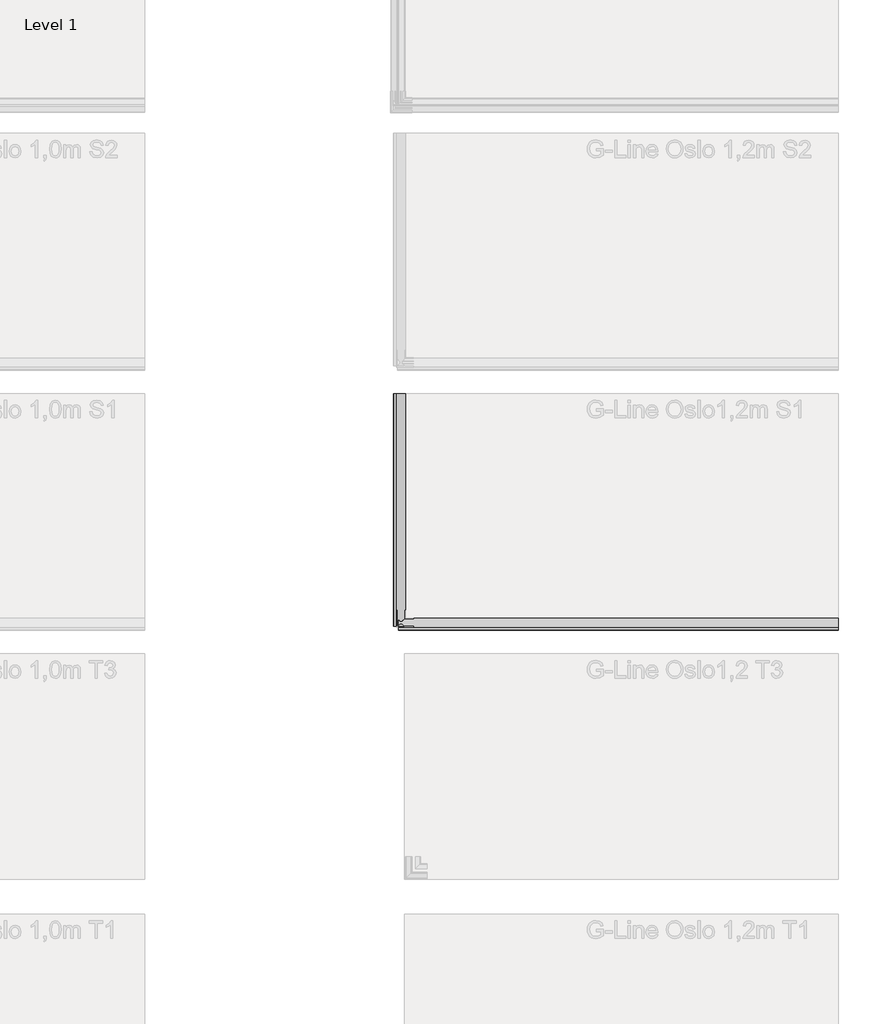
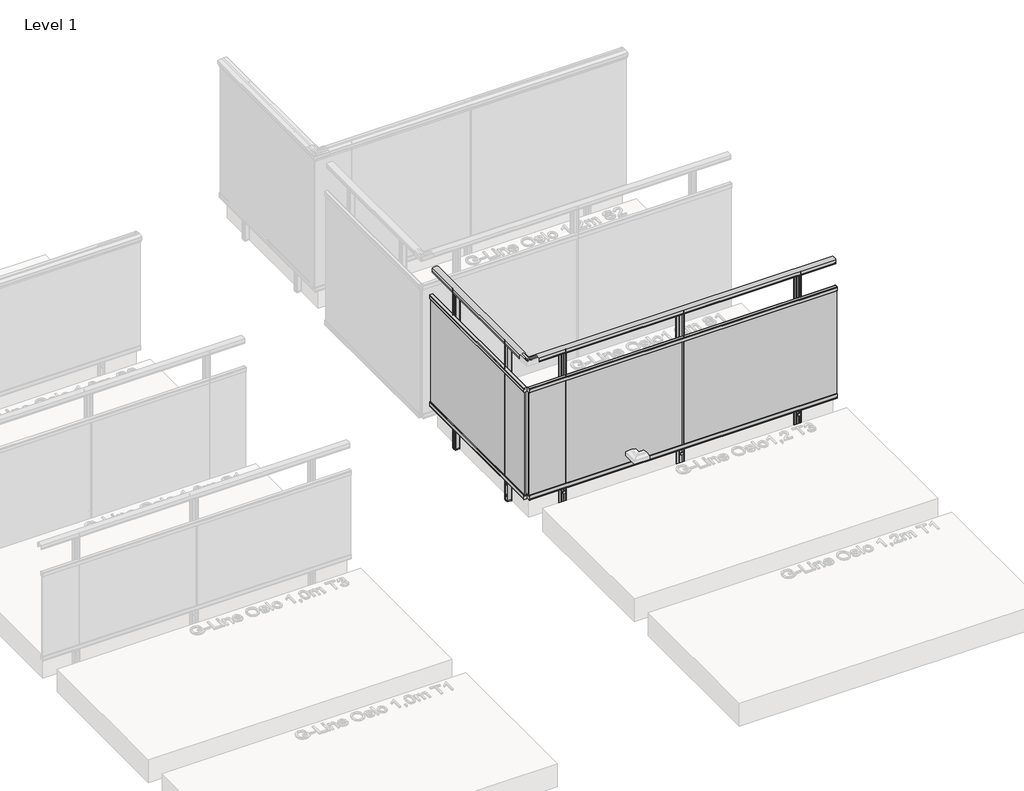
# One storey, part 33 of 66: 2 railings.
"""IFC4 building model written with IfcOpenShell, lengths in millimetres."""

from ifc_helpers import new_model, si_unit, point, frame, frame_2d, origin, origin_with_axes, place, context, project, spatial, polyline, circle_curve, trimmed, segment, composite_curve, outline, extrude, element, save

model = new_model("IFC4")

# Units and contexts
model_context = context("Model", 3, world=origin())
ifc_project = project(units=[si_unit("LENGTHUNIT", "METRE", prefix="MILLI")], contexts=[model_context])

# Site, building, storey
site = spatial("IfcSite", under=ifc_project)
building = spatial("IfcBuilding", under=site)
storey = spatial("IfcBuildingStorey", under=building, Name="Level 1", Elevation=0.0)

# Railings
placement = place(None, origin())
element("IfcRailing", 1, ObjectType="G-Line Oslo 1,2m S1", at=placement, inside=storey, context=model_context, shape_type="SweptSolid", body=[
    extrude(outline(composite_curve([segment(trimmed(circle_curve(frame_2d((12609.563828, 1142.6785502)), 57.3235687), [point((12584.3088677, 1194.1390059))], [point((12634.828526, 1194.1342258))], False, "CARTESIAN"), True, "CONTINUOUS"), segment(polyline([(12634.828526, 1194.1342258), (12634.828526, 1167.0235023), (12634.2465942, 1166.4415706), (12634.8686753, 1165.8194895), (12634.8686753, 1157.2498847), (12633.0637224, 1157.2498847), (12633.0637224, 1180.4998829), (12586.0686763, 1180.4998829), (12586.0686763, 1157.2498847), (12584.3088677, 1157.2498847), (12584.3088677, 1165.9694895), (12584.9236507, 1166.5842725), (12584.3088677, 1167.1990555), (12584.3088677, 1194.1390059)]), True, "CONTINUOUS")], self_intersect=False)), frame((8469.0547322, 0.0, 0.0), z_axis=(1.0, 0.0, 0.0), x_axis=(0.0, 1.0, 0.0)), (0.0, 0.0, 1.0), 2535.0),
    extrude(outline(composite_curve([segment(polyline([(12582.0487504, 933.0), (12572.5287505, 933.0), (12565.2886441, 933.0)]), True, "CONTINUOUS"), segment(trimmed(circle_curve(frame_2d((12565.2886441, 933.5)), 0.5), [point((12565.2886441, 933.0))], [point((12564.7886441, 933.5))], False, "CARTESIAN"), True, "CONTINUOUS"), segment(polyline([(12564.7886441, 933.5), (12564.7886441, 961.4642612), (12565.2520415, 962.5008136), (12564.8288365, 963.3802866), (12564.7886441, 968.5)]), True, "CONTINUOUS"), segment(trimmed(circle_curve(frame_2d((12566.2886441, 968.5)), 1.5), [point((12564.7886441, 968.5))], [point((12566.2886441, 970.0))], False, "CARTESIAN"), True, "CONTINUOUS"), segment(polyline([(12566.2886441, 970.0), (12588.2886441, 970.0)]), True, "CONTINUOUS"), segment(trimmed(circle_curve(frame_2d((12588.2886441, 968.5)), 1.5), [point((12588.2886441, 970.0))], [point((12589.7886441, 968.5))], False, "CARTESIAN"), True, "CONTINUOUS"), segment(polyline([(12589.7886441, 968.5), (12589.7886441, 963.5302866), (12589.3252466, 962.5701988), (12589.7484517, 961.6142612), (12589.7484517, 933.6964102)]), True, "CONTINUOUS"), segment(trimmed(circle_curve(frame_2d((12589.2886441, 933.5)), 0.5), [point((12589.7484517, 933.6964102))], [point((12589.2886441, 933.0))], False, "CARTESIAN"), True, "CONTINUOUS"), segment(polyline([(12589.2886441, 933.0), (12582.0487504, 933.0)]), True, "CONTINUOUS")], self_intersect=False)), frame((8469.0547322, 0.0, 0.0), z_axis=(1.0, 0.0, 0.0), x_axis=(0.0, 1.0, 0.0)), (0.0, 0.0, 1.0), 2535.0),
    extrude(outline(polyline([(11004.0547322, 12581.6686441), (11004.0547322, 12572.9086441), (8469.0547322, 12572.9086441), (8469.0547322, 12581.6686441), (11004.0547322, 12581.6686441)])), frame((0.0, 0.0, 28.0), z_axis=(0.0, 0.0, 1.0), x_axis=(1.0, 0.0, 0.0)), (0.0, 0.0, 1.0), 930.0),
    extrude(outline(composite_curve([segment(polyline([(12572.5285377, 37.0), (12582.0485377, 37.0), (12589.2886441, 37.0)]), True, "CONTINUOUS"), segment(trimmed(circle_curve(frame_2d((12589.2886441, 36.5)), 0.5), [point((12589.2886441, 37.0))], [point((12589.7886441, 36.5))], False, "CARTESIAN"), True, "CONTINUOUS"), segment(polyline([(12589.7886441, 36.5), (12589.7886441, 8.5357388), (12589.3252466, 7.4991864), (12589.7484517, 6.6197134), (12589.7886441, 1.5)]), True, "CONTINUOUS"), segment(trimmed(circle_curve(frame_2d((12588.2886441, 1.5)), 1.5), [point((12589.7886441, 1.5))], [point((12588.2886441, 0.0))], False, "CARTESIAN"), True, "CONTINUOUS"), segment(polyline([(12588.2886441, 0.0), (12566.2886441, 0.0)]), True, "CONTINUOUS"), segment(trimmed(circle_curve(frame_2d((12566.2886441, 1.5)), 1.5), [point((12566.2886441, 0.0))], [point((12564.7886441, 1.5))], False, "CARTESIAN"), True, "CONTINUOUS"), segment(polyline([(12564.7886441, 1.5), (12564.7886441, 6.4697134), (12565.2520415, 7.4298012), (12564.8288365, 8.3857388), (12564.8288365, 36.3035898)]), True, "CONTINUOUS"), segment(trimmed(circle_curve(frame_2d((12565.2886441, 36.5)), 0.5), [point((12564.8288365, 36.3035898))], [point((12565.2886441, 37.0))], False, "CARTESIAN"), True, "CONTINUOUS"), segment(polyline([(12565.2886441, 37.0), (12572.5285377, 37.0)]), True, "CONTINUOUS")], self_intersect=False)), frame((8469.0547322, 0.0, 0.0), z_axis=(1.0, 0.0, 0.0), x_axis=(0.0, 1.0, 0.0)), (0.0, 0.0, 1.0), 2535.0),
    extrude(outline(polyline([(9740.5547322, 12570.2118492), (9732.5547322, 12570.2118492), (9732.5547322, 12578.2118492), (9740.5547322, 12578.2118492), (9740.5547322, 12570.2118492)])), origin_with_axes(), (0.0, 0.0, 1.0), 951.0),
    extrude(outline(composite_curve([segment(trimmed(circle_curve(frame_2d((9716.0547322, 12589.7886441)), 2.5), [point((9716.0547322, 12587.2886441))], [point((9713.5547322, 12589.7886441))], False, "CARTESIAN"), True, "CONTINUOUS"), segment(polyline([(9713.5547322, 12589.7886441), (9713.5547322, 12630.7886441)]), True, "CONTINUOUS"), segment(trimmed(circle_curve(frame_2d((9716.0547322, 12630.7886441)), 2.5), [point((9713.5547322, 12630.7886441))], [point((9716.0547322, 12633.2886441))], False, "CARTESIAN"), True, "CONTINUOUS"), segment(polyline([(9716.0547322, 12633.2886441), (9735.6315272, 12633.2886441), (9736.5547322, 12632.365439), (9737.4377449, 12633.2484517), (9757.0547322, 12633.2886441)]), True, "CONTINUOUS"), segment(trimmed(circle_curve(frame_2d((9757.0547322, 12630.7886441)), 2.5), [point((9757.0547322, 12633.2886441))], [point((9759.5547322, 12630.7886441))], False, "CARTESIAN"), True, "CONTINUOUS"), segment(polyline([(9759.5547322, 12630.7886441), (9759.5547322, 12589.7886441)]), True, "CONTINUOUS"), segment(trimmed(circle_curve(frame_2d((9757.0547322, 12589.7886441)), 2.5), [point((9759.5547322, 12589.7886441))], [point((9757.0547322, 12587.2886441))], False, "CARTESIAN"), True, "CONTINUOUS"), segment(polyline([(9757.0547322, 12587.2886441), (9737.4377449, 12587.3288365), (9736.5547322, 12588.2118492), (9735.6717195, 12587.3288365), (9716.0547322, 12587.2886441)]), True, "CONTINUOUS")], self_intersect=False), holes=[composite_curve([segment(trimmed(circle_curve(frame_2d((9754.5547322, 12628.2886441)), 1.0), [point((9755.5547322, 12628.2886441))], [point((9754.5547322, 12629.2886441))], True, "CARTESIAN"), True, "CONTINUOUS"), segment(polyline([(9754.5547322, 12629.2886441), (9718.5547322, 12629.2886441)]), True, "CONTINUOUS"), segment(trimmed(circle_curve(frame_2d((9718.5547322, 12628.2886441)), 1.0), [point((9718.5547322, 12629.2886441))], [point((9717.5547322, 12628.2886441))], True, "CARTESIAN"), True, "CONTINUOUS"), segment(polyline([(9717.5547322, 12628.2886441), (9717.5547322, 12592.2886441)]), True, "CONTINUOUS"), segment(trimmed(circle_curve(frame_2d((9718.5547322, 12592.2886441)), 1.0), [point((9717.5547322, 12592.2886441))], [point((9718.5547322, 12591.2886441))], True, "CARTESIAN"), True, "CONTINUOUS"), segment(polyline([(9718.5547322, 12591.2886441), (9754.5547322, 12591.2886441)]), True, "CONTINUOUS"), segment(trimmed(circle_curve(frame_2d((9754.5547322, 12592.2886441)), 1.0), [point((9754.5547322, 12591.2886441))], [point((9755.5547322, 12592.2886441))], True, "CARTESIAN"), True, "CONTINUOUS"), segment(polyline([(9755.5547322, 12592.2886441), (9755.5547322, 12628.2886441)]), True, "CONTINUOUS")], self_intersect=False)]), frame((0.0, 0.0, -200.0), z_axis=(0.0, 0.0, 1.0), x_axis=(1.0, 0.0, 0.0)), (0.0, 0.0, 1.0), 1381.0),
    extrude(outline(composite_curve([segment(trimmed(circle_curve(frame_2d((0.0, -12.0)), 12.0), [point((0.0, -23.9999999))], [point((0.0, 0.0))], False, "CARTESIAN"), True, "CONTINUOUS"), segment(trimmed(circle_curve(frame_2d((0.0, -12.0)), 12.0), [point((0.0, 0.0))], [point((0.0, -23.9999999))], False, "CARTESIAN"), True, "CONTINUOUS")], self_intersect=False)), frame((9748.5650091, 12584.7534315, -175.0), z_axis=(-0.0004029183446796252, 0.9999999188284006, 0.0), x_axis=(0.0, 0.0, 1.0)), (0.0, 0.0, 1.0), 3.0757477),
    extrude(outline(composite_curve([segment(trimmed(circle_curve(frame_2d((0.0, -12.0)), 12.0), [point((0.0, -23.9999999))], [point((0.0, 0.0))], False, "CARTESIAN"), True, "CONTINUOUS"), segment(trimmed(circle_curve(frame_2d((0.0, -12.0)), 12.0), [point((0.0, 0.0))], [point((0.0, -23.9999999))], False, "CARTESIAN"), True, "CONTINUOUS")], self_intersect=False)), frame((9748.5650091, 12584.7534315, -50.0), z_axis=(-0.0004029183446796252, 0.9999999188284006, 0.0), x_axis=(0.0, 0.0, 1.0)), (0.0, 0.0, 1.0), 3.0757477),
    extrude(outline(composite_curve([segment(polyline([(8768.2519452, 12630.2886441), (8769.0547322, 12629.4858571), (8769.8225694, 12630.2536942), (8786.8808193, 12630.2886441)]), True, "CONTINUOUS"), segment(trimmed(circle_curve(frame_2d((8786.8808192, 12628.114731)), 2.173913), [point((8786.8808193, 12630.2886441))], [point((8789.0547322, 12628.114731))], False, "CARTESIAN"), True, "CONTINUOUS"), segment(polyline([(8789.0547322, 12628.114731), (8789.0547322, 12592.4625571)]), True, "CONTINUOUS"), segment(trimmed(circle_curve(frame_2d((8786.8808192, 12592.4625571)), 2.173913), [point((8789.0547322, 12592.4625571))], [point((8786.8808192, 12590.2886441))], False, "CARTESIAN"), True, "CONTINUOUS"), segment(polyline([(8786.8808192, 12590.2886441), (8769.8225694, 12590.323594), (8769.0547322, 12591.0914311), (8768.2868951, 12590.323594), (8751.2286453, 12590.2886441)]), True, "CONTINUOUS"), segment(trimmed(circle_curve(frame_2d((8751.2286453, 12592.4625571)), 2.173913), [point((8751.2286453, 12590.2886441))], [point((8749.0547322, 12592.4625571))], False, "CARTESIAN"), True, "CONTINUOUS"), segment(polyline([(8749.0547322, 12592.4625571), (8749.0547322, 12628.114731)]), True, "CONTINUOUS"), segment(trimmed(circle_curve(frame_2d((8751.2286453, 12628.114731)), 2.173913), [point((8749.0547322, 12628.114731))], [point((8751.2286453, 12630.2886441))], False, "CARTESIAN"), True, "CONTINUOUS"), segment(polyline([(8751.2286453, 12630.2886441), (8768.2519452, 12630.2886441)]), True, "CONTINUOUS")], self_intersect=False)), frame((0.0, 0.0, -200.0), z_axis=(0.0, 0.0, 1.0), x_axis=(1.0, 0.0, 0.0)), (0.0, 0.0, 1.0), 10.0),
    extrude(outline(composite_curve([segment(trimmed(circle_curve(frame_2d((0.0, -12.0)), 12.0), [point((0.0, -23.9999999))], [point((0.0, 0.0))], False, "CARTESIAN"), True, "CONTINUOUS"), segment(trimmed(circle_curve(frame_2d((0.0, -12.0)), 12.0), [point((0.0, 0.0))], [point((0.0, -23.9999999))], False, "CARTESIAN"), True, "CONTINUOUS")], self_intersect=False)), frame((8781.0650091, 12587.2248149, -151.0), z_axis=(-0.0004029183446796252, 0.9999999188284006, 0.0), x_axis=(0.0, 0.0, 1.0)), (0.0, 0.0, 1.0), 3.0757477),
    extrude(outline(composite_curve([segment(trimmed(circle_curve(frame_2d((0.0, -12.0)), 12.0), [point((0.0, -23.9999999))], [point((0.0, 0.0))], False, "CARTESIAN"), True, "CONTINUOUS"), segment(trimmed(circle_curve(frame_2d((0.0, -12.0)), 12.0), [point((0.0, 0.0))], [point((0.0, -23.9999999))], False, "CARTESIAN"), True, "CONTINUOUS")], self_intersect=False)), frame((8781.0650091, 12587.2248149, -50.0), z_axis=(-0.0004029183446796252, 0.9999999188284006, 0.0), x_axis=(0.0, 0.0, 1.0)), (0.0, 0.0, 1.0), 3.0757477),
    extrude(outline(composite_curve([segment(polyline([(8789.0547322, 12628.114731), (8789.0547322, 12592.4625571)]), True, "CONTINUOUS"), segment(trimmed(circle_curve(frame_2d((8786.8808192, 12592.4625571)), 2.173913), [point((8789.0547322, 12592.4625571))], [point((8786.8808192, 12590.2886441))], False, "CARTESIAN"), True, "CONTINUOUS"), segment(polyline([(8786.8808192, 12590.2886441), (8769.8225694, 12590.323594), (8769.0547322, 12591.0914311), (8768.2868951, 12590.323594), (8751.2286453, 12590.2886441)]), True, "CONTINUOUS"), segment(trimmed(circle_curve(frame_2d((8751.2286453, 12592.4625571)), 2.173913), [point((8751.2286453, 12590.2886441))], [point((8749.0547322, 12592.4625571))], False, "CARTESIAN"), True, "CONTINUOUS"), segment(polyline([(8749.0547322, 12592.4625571), (8749.0547322, 12628.114731)]), True, "CONTINUOUS"), segment(trimmed(circle_curve(frame_2d((8751.2286453, 12628.114731)), 2.173913), [point((8749.0547322, 12628.114731))], [point((8751.2286453, 12630.2886441))], False, "CARTESIAN"), True, "CONTINUOUS"), segment(polyline([(8751.2286453, 12630.2886441), (8768.1564603, 12630.2886441), (8768.9242975, 12629.8856898), (8769.8225694, 12630.2536942), (8786.8808192, 12630.2886441)]), True, "CONTINUOUS"), segment(trimmed(circle_curve(frame_2d((8786.8808192, 12628.114731)), 2.173913), [point((8786.8808192, 12630.2886441))], [point((8789.0547322, 12628.114731))], False, "CARTESIAN"), True, "CONTINUOUS")], self_intersect=False), holes=[composite_curve([segment(trimmed(circle_curve(frame_2d((8784.7069062, 12625.940818)), 0.8695652), [point((8785.5764714, 12625.940818))], [point((8784.7069062, 12626.8103832))], True, "CARTESIAN"), True, "CONTINUOUS"), segment(polyline([(8784.7069062, 12626.8103832), (8753.4025583, 12626.8103832)]), True, "CONTINUOUS"), segment(trimmed(circle_curve(frame_2d((8753.4025583, 12625.940818)), 0.8695652), [point((8753.4025583, 12626.8103832))], [point((8752.5329931, 12625.940818))], True, "CARTESIAN"), True, "CONTINUOUS"), segment(polyline([(8752.5329931, 12625.940818), (8752.5329931, 12594.6364702)]), True, "CONTINUOUS"), segment(trimmed(circle_curve(frame_2d((8753.4025583, 12594.6364702)), 0.8695652), [point((8752.5329931, 12594.6364702))], [point((8753.4025583, 12593.766905))], True, "CARTESIAN"), True, "CONTINUOUS"), segment(polyline([(8753.4025583, 12593.766905), (8784.7069062, 12593.766905)]), True, "CONTINUOUS"), segment(trimmed(circle_curve(frame_2d((8784.7069062, 12594.6364702)), 0.8695652), [point((8784.7069062, 12593.766905))], [point((8785.5764714, 12594.6364702))], True, "CARTESIAN"), True, "CONTINUOUS"), segment(polyline([(8785.5764714, 12594.6364702), (8785.5764714, 12625.940818)]), True, "CONTINUOUS")], self_intersect=False)]), frame((0.0, 0.0, -190.0), z_axis=(0.0, 0.0, 1.0), x_axis=(1.0, 0.0, 0.0)), (0.0, 0.0, 1.0), 1378.0),
    extrude(outline(composite_curve([segment(polyline([(10703.2519452, 12630.2886441), (10704.0547322, 12629.4858571), (10704.8225694, 12630.2536942), (10721.8808193, 12630.2886441)]), True, "CONTINUOUS"), segment(trimmed(circle_curve(frame_2d((10721.8808192, 12628.114731)), 2.173913), [point((10721.8808193, 12630.2886441))], [point((10724.0547322, 12628.114731))], False, "CARTESIAN"), True, "CONTINUOUS"), segment(polyline([(10724.0547322, 12628.114731), (10724.0547322, 12592.4625571)]), True, "CONTINUOUS"), segment(trimmed(circle_curve(frame_2d((10721.8808192, 12592.4625571)), 2.173913), [point((10724.0547322, 12592.4625571))], [point((10721.8808192, 12590.2886441))], False, "CARTESIAN"), True, "CONTINUOUS"), segment(polyline([(10721.8808192, 12590.2886441), (10704.8225694, 12590.323594), (10704.0547322, 12591.0914311), (10703.2868951, 12590.323594), (10686.2286453, 12590.2886441)]), True, "CONTINUOUS"), segment(trimmed(circle_curve(frame_2d((10686.2286453, 12592.4625571)), 2.173913), [point((10686.2286453, 12590.2886441))], [point((10684.0547322, 12592.4625571))], False, "CARTESIAN"), True, "CONTINUOUS"), segment(polyline([(10684.0547322, 12592.4625571), (10684.0547322, 12628.114731)]), True, "CONTINUOUS"), segment(trimmed(circle_curve(frame_2d((10686.2286453, 12628.114731)), 2.173913), [point((10684.0547322, 12628.114731))], [point((10686.2286453, 12630.2886441))], False, "CARTESIAN"), True, "CONTINUOUS"), segment(polyline([(10686.2286453, 12630.2886441), (10703.2519452, 12630.2886441)]), True, "CONTINUOUS")], self_intersect=False)), frame((0.0, 0.0, -200.0), z_axis=(0.0, 0.0, 1.0), x_axis=(1.0, 0.0, 0.0)), (0.0, 0.0, 1.0), 10.0),
    extrude(outline(composite_curve([segment(trimmed(circle_curve(frame_2d((0.0, -12.0)), 12.0), [point((0.0, -23.9999999))], [point((0.0, 0.0))], False, "CARTESIAN"), True, "CONTINUOUS"), segment(trimmed(circle_curve(frame_2d((0.0, -12.0)), 12.0), [point((0.0, 0.0))], [point((0.0, -23.9999999))], False, "CARTESIAN"), True, "CONTINUOUS")], self_intersect=False)), frame((10716.0650091, 12587.2248149, -151.0), z_axis=(-0.0004029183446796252, 0.9999999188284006, 0.0), x_axis=(0.0, 0.0, 1.0)), (0.0, 0.0, 1.0), 3.0757477),
    extrude(outline(composite_curve([segment(trimmed(circle_curve(frame_2d((0.0, -12.0)), 12.0), [point((0.0, -23.9999999))], [point((0.0, 0.0))], False, "CARTESIAN"), True, "CONTINUOUS"), segment(trimmed(circle_curve(frame_2d((0.0, -12.0)), 12.0), [point((0.0, 0.0))], [point((0.0, -23.9999999))], False, "CARTESIAN"), True, "CONTINUOUS")], self_intersect=False)), frame((10716.0650091, 12587.2248149, -50.0), z_axis=(-0.0004029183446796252, 0.9999999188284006, 0.0), x_axis=(0.0, 0.0, 1.0)), (0.0, 0.0, 1.0), 3.0757477),
    extrude(outline(composite_curve([segment(polyline([(10724.0547322, 12628.114731), (10724.0547322, 12592.4625571)]), True, "CONTINUOUS"), segment(trimmed(circle_curve(frame_2d((10721.8808192, 12592.4625571)), 2.173913), [point((10724.0547322, 12592.4625571))], [point((10721.8808192, 12590.2886441))], False, "CARTESIAN"), True, "CONTINUOUS"), segment(polyline([(10721.8808192, 12590.2886441), (10704.8225694, 12590.323594), (10704.0547322, 12591.0914311), (10703.2868951, 12590.323594), (10686.2286453, 12590.2886441)]), True, "CONTINUOUS"), segment(trimmed(circle_curve(frame_2d((10686.2286453, 12592.4625571)), 2.173913), [point((10686.2286453, 12590.2886441))], [point((10684.0547322, 12592.4625571))], False, "CARTESIAN"), True, "CONTINUOUS"), segment(polyline([(10684.0547322, 12592.4625571), (10684.0547322, 12628.114731)]), True, "CONTINUOUS"), segment(trimmed(circle_curve(frame_2d((10686.2286453, 12628.114731)), 2.173913), [point((10684.0547322, 12628.114731))], [point((10686.2286453, 12630.2886441))], False, "CARTESIAN"), True, "CONTINUOUS"), segment(polyline([(10686.2286453, 12630.2886441), (10703.1564603, 12630.2886441), (10703.9242975, 12629.8856898), (10704.8225694, 12630.2536942), (10721.8808192, 12630.2886441)]), True, "CONTINUOUS"), segment(trimmed(circle_curve(frame_2d((10721.8808192, 12628.114731)), 2.173913), [point((10721.8808192, 12630.2886441))], [point((10724.0547322, 12628.114731))], False, "CARTESIAN"), True, "CONTINUOUS")], self_intersect=False), holes=[composite_curve([segment(trimmed(circle_curve(frame_2d((10719.7069062, 12625.940818)), 0.8695652), [point((10720.5764714, 12625.940818))], [point((10719.7069062, 12626.8103832))], True, "CARTESIAN"), True, "CONTINUOUS"), segment(polyline([(10719.7069062, 12626.8103832), (10688.4025583, 12626.8103832)]), True, "CONTINUOUS"), segment(trimmed(circle_curve(frame_2d((10688.4025583, 12625.940818)), 0.8695652), [point((10688.4025583, 12626.8103832))], [point((10687.5329931, 12625.940818))], True, "CARTESIAN"), True, "CONTINUOUS"), segment(polyline([(10687.5329931, 12625.940818), (10687.5329931, 12594.6364702)]), True, "CONTINUOUS"), segment(trimmed(circle_curve(frame_2d((10688.4025583, 12594.6364702)), 0.8695652), [point((10687.5329931, 12594.6364702))], [point((10688.4025583, 12593.766905))], True, "CARTESIAN"), True, "CONTINUOUS"), segment(polyline([(10688.4025583, 12593.766905), (10719.7069062, 12593.766905)]), True, "CONTINUOUS"), segment(trimmed(circle_curve(frame_2d((10719.7069062, 12594.6364702)), 0.8695652), [point((10719.7069062, 12593.766905))], [point((10720.5764714, 12594.6364702))], True, "CARTESIAN"), True, "CONTINUOUS"), segment(polyline([(10720.5764714, 12594.6364702), (10720.5764714, 12625.940818)]), True, "CONTINUOUS")], self_intersect=False)]), frame((0.0, 0.0, -190.0), z_axis=(0.0, 0.0, 1.0), x_axis=(1.0, 0.0, 0.0)), (0.0, 0.0, 1.0), 1378.0),
])
element("IfcRailing", 2, ObjectType="G-Line Oslo 1,2m S1", at=placement, inside=storey, context=model_context, shape_type="SweptSolid", body=[
    extrude(outline(composite_curve([segment(trimmed(circle_curve(frame_2d((1142.6785502, 8483.339356)), 57.3235687), [point((1194.1390059, 8508.5943162))], [point((1194.1342258, 8458.074658))], False, "CARTESIAN"), True, "CONTINUOUS"), segment(polyline([(1194.1342258, 8458.074658), (1167.0235023, 8458.074658), (1166.4415706, 8458.6565897), (1165.8194895, 8458.0345086), (1157.2498847, 8458.0345086), (1157.2498847, 8459.8394615), (1180.4998829, 8459.8394615), (1180.4998829, 8506.8345077), (1157.2498847, 8506.8345077), (1157.2498847, 8508.5943162), (1165.9694895, 8508.5943162), (1166.5842725, 8507.9795332), (1167.1990555, 8508.5943162), (1194.1390059, 8508.5943162)]), True, "CONTINUOUS")], self_intersect=False)), frame((0.0, 12590.2886441, 0.0), z_axis=(0.0, 1.0, 0.0), x_axis=(0.0, 0.0, 1.0)), (0.0, 0.0, 1.0), 1340.0),
    extrude(outline(composite_curve([segment(polyline([(933.0, 8455.8148386), (933.0, 8463.0547322)]), True, "CONTINUOUS"), segment(trimmed(circle_curve(frame_2d((933.5, 8463.0547322)), 0.5), [point((933.0, 8463.0547322))], [point((933.6964102, 8463.5145399))], False, "CARTESIAN"), True, "CONTINUOUS"), segment(polyline([(933.6964102, 8463.5145399), (961.6142612, 8463.5145399), (962.5701988, 8463.0913348), (963.5302866, 8463.5547322), (968.5, 8463.5547322)]), True, "CONTINUOUS"), segment(trimmed(circle_curve(frame_2d((968.5, 8462.0547322)), 1.5), [point((968.5, 8463.5547322))], [point((970.0, 8462.0547322))], False, "CARTESIAN"), True, "CONTINUOUS"), segment(polyline([(970.0, 8462.0547322), (970.0, 8440.0547322)]), True, "CONTINUOUS"), segment(trimmed(circle_curve(frame_2d((968.5, 8440.0547322)), 1.5), [point((970.0, 8440.0547322))], [point((968.5, 8438.5547322))], False, "CARTESIAN"), True, "CONTINUOUS"), segment(polyline([(968.5, 8438.5547322), (963.3802866, 8438.5949246), (962.5008136, 8439.0181297), (961.4642612, 8438.5547322), (933.5, 8438.5547322)]), True, "CONTINUOUS"), segment(trimmed(circle_curve(frame_2d((933.5, 8439.0547322)), 0.5), [point((933.5, 8438.5547322))], [point((933.0, 8439.0547322))], False, "CARTESIAN"), True, "CONTINUOUS"), segment(polyline([(933.0, 8439.0547322), (933.0, 8446.2948387), (933.0, 8455.8148386)]), True, "CONTINUOUS")], self_intersect=False)), frame((0.0, 12590.2886441, 0.0), z_axis=(0.0, 1.0, 0.0), x_axis=(0.0, 0.0, 1.0)), (0.0, 0.0, 1.0), 1340.0),
    extrude(outline(polyline([(8446.6747322, 13930.2886441), (8455.4347322, 13930.2886441), (8455.4347322, 12590.2886441), (8446.6747322, 12590.2886441), (8446.6747322, 13930.2886441)])), frame((0.0, 0.0, 28.0), z_axis=(0.0, 0.0, 1.0), x_axis=(1.0, 0.0, 0.0)), (0.0, 0.0, 1.0), 930.0),
    extrude(outline(composite_curve([segment(polyline([(37.0, 8446.2946259), (37.0, 8439.0547322)]), True, "CONTINUOUS"), segment(trimmed(circle_curve(frame_2d((36.5, 8439.0547322)), 0.5), [point((37.0, 8439.0547322))], [point((36.3035898, 8438.5949246))], False, "CARTESIAN"), True, "CONTINUOUS"), segment(polyline([(36.3035898, 8438.5949246), (8.3857388, 8438.5949246), (7.4298012, 8439.0181297), (6.4697134, 8438.5547322), (1.5, 8438.5547322)]), True, "CONTINUOUS"), segment(trimmed(circle_curve(frame_2d((1.5, 8440.0547322)), 1.5), [point((1.5, 8438.5547322))], [point((0.0, 8440.0547322))], False, "CARTESIAN"), True, "CONTINUOUS"), segment(polyline([(0.0, 8440.0547322), (0.0, 8462.0547322)]), True, "CONTINUOUS"), segment(trimmed(circle_curve(frame_2d((1.5, 8462.0547322)), 1.5), [point((0.0, 8462.0547322))], [point((1.5, 8463.5547322))], False, "CARTESIAN"), True, "CONTINUOUS"), segment(polyline([(1.5, 8463.5547322), (6.6197134, 8463.5145399), (7.4991864, 8463.0913348), (8.5357388, 8463.5547322), (36.5, 8463.5547322)]), True, "CONTINUOUS"), segment(trimmed(circle_curve(frame_2d((36.5, 8463.0547322)), 0.5), [point((36.5, 8463.5547322))], [point((37.0, 8463.0547322))], False, "CARTESIAN"), True, "CONTINUOUS"), segment(polyline([(37.0, 8463.0547322), (37.0, 8455.8146258), (37.0, 8446.2946259)]), True, "CONTINUOUS")], self_intersect=False)), frame((0.0, 12590.2886441, 0.0), z_axis=(0.0, 1.0, 0.0), x_axis=(0.0, 0.0, 1.0)), (0.0, 0.0, 1.0), 1340.0),
    extrude(outline(composite_curve([segment(polyline([(8504.0547322, 12889.4858571), (8504.0547322, 12872.4625571)]), True, "CONTINUOUS"), segment(trimmed(circle_curve(frame_2d((8501.8808192, 12872.4625571)), 2.173913), [point((8504.0547322, 12872.4625571))], [point((8501.8808192, 12870.2886441))], False, "CARTESIAN"), True, "CONTINUOUS"), segment(polyline([(8501.8808192, 12870.2886441), (8466.2286453, 12870.2886441)]), True, "CONTINUOUS"), segment(trimmed(circle_curve(frame_2d((8466.2286453, 12872.4625571)), 2.173913), [point((8466.2286453, 12870.2886441))], [point((8464.0547322, 12872.4625571))], False, "CARTESIAN"), True, "CONTINUOUS"), segment(polyline([(8464.0547322, 12872.4625571), (8464.0896821, 12889.520807), (8464.8575193, 12890.2886441), (8464.0896821, 12891.0564812), (8464.0547322, 12908.114731)]), True, "CONTINUOUS"), segment(trimmed(circle_curve(frame_2d((8466.2286453, 12908.114731)), 2.173913), [point((8464.0547322, 12908.114731))], [point((8466.2286453, 12910.2886441))], False, "CARTESIAN"), True, "CONTINUOUS"), segment(polyline([(8466.2286453, 12910.2886441), (8501.8808192, 12910.2886441)]), True, "CONTINUOUS"), segment(trimmed(circle_curve(frame_2d((8501.8808192, 12908.114731)), 2.173913), [point((8501.8808192, 12910.2886441))], [point((8504.0547322, 12908.1147311))], False, "CARTESIAN"), True, "CONTINUOUS"), segment(polyline([(8504.0547322, 12908.1147311), (8504.0197823, 12891.0564812), (8503.2519452, 12890.2886441), (8504.0547322, 12889.4858571)]), True, "CONTINUOUS")], self_intersect=False)), frame((0.0, 0.0, -200.0), z_axis=(0.0, 0.0, 1.0), x_axis=(1.0, 0.0, 0.0)), (0.0, 0.0, 1.0), 10.0),
    extrude(outline(composite_curve([segment(trimmed(circle_curve(frame_2d((0.0, 12.0000001)), 12.0), [point((0.0, 24.0))], [point((0.0, 0.0))], False, "CARTESIAN"), True, "CONTINUOUS"), segment(trimmed(circle_curve(frame_2d((0.0, 12.0000001)), 12.0), [point((0.0, 0.0))], [point((0.0, 24.0))], False, "CARTESIAN"), True, "CONTINUOUS")], self_intersect=False)), frame((8464.0666505, 12902.2976817, -151.0), z_axis=(-0.9999999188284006, 0.00040291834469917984, 0.0), x_axis=(0.0, 0.0, -1.0)), (0.0, 0.0, 1.0), 3.0757477),
    extrude(outline(composite_curve([segment(trimmed(circle_curve(frame_2d((0.0, 12.0000001)), 12.0), [point((0.0, 24.0))], [point((0.0, 0.0))], False, "CARTESIAN"), True, "CONTINUOUS"), segment(trimmed(circle_curve(frame_2d((0.0, 12.0000001)), 12.0), [point((0.0, 0.0))], [point((0.0, 24.0))], False, "CARTESIAN"), True, "CONTINUOUS")], self_intersect=False)), frame((8464.0666505, 12902.2976817, -50.0), z_axis=(-0.9999999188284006, 0.00040291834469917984, 0.0), x_axis=(0.0, 0.0, -1.0)), (0.0, 0.0, 1.0), 3.0757477),
    extrude(outline(composite_curve([segment(trimmed(circle_curve(frame_2d((8501.8808192, 12908.114731)), 2.173913), [point((8501.8808192, 12910.2886441))], [point((8504.0547322, 12908.114731))], False, "CARTESIAN"), True, "CONTINUOUS"), segment(polyline([(8504.0547322, 12908.114731), (8504.0197823, 12891.0564812), (8503.6517779, 12890.1582093), (8504.0547322, 12889.3903722), (8504.0547322, 12872.4625571)]), True, "CONTINUOUS"), segment(trimmed(circle_curve(frame_2d((8501.8808192, 12872.4625571)), 2.173913), [point((8504.0547322, 12872.4625571))], [point((8501.8808192, 12870.2886441))], False, "CARTESIAN"), True, "CONTINUOUS"), segment(polyline([(8501.8808192, 12870.2886441), (8466.2286453, 12870.2886441)]), True, "CONTINUOUS"), segment(trimmed(circle_curve(frame_2d((8466.2286453, 12872.4625571)), 2.173913), [point((8466.2286453, 12870.2886441))], [point((8464.0547322, 12872.4625571))], False, "CARTESIAN"), True, "CONTINUOUS"), segment(polyline([(8464.0547322, 12872.4625571), (8464.0896821, 12889.520807), (8464.8575193, 12890.2886441), (8464.0896821, 12891.0564812), (8464.0547322, 12908.114731)]), True, "CONTINUOUS"), segment(trimmed(circle_curve(frame_2d((8466.2286453, 12908.114731)), 2.173913), [point((8464.0547322, 12908.114731))], [point((8466.2286453, 12910.2886441))], False, "CARTESIAN"), True, "CONTINUOUS"), segment(polyline([(8466.2286453, 12910.2886441), (8501.8808192, 12910.2886441)]), True, "CONTINUOUS")], self_intersect=False), holes=[composite_curve([segment(polyline([(8499.7069062, 12906.8103832), (8468.4025583, 12906.8103832)]), True, "CONTINUOUS"), segment(trimmed(circle_curve(frame_2d((8468.4025583, 12905.940818)), 0.8695652), [point((8468.4025583, 12906.8103832))], [point((8467.5329931, 12905.940818))], True, "CARTESIAN"), True, "CONTINUOUS"), segment(polyline([(8467.5329931, 12905.940818), (8467.5329931, 12874.6364702)]), True, "CONTINUOUS"), segment(trimmed(circle_curve(frame_2d((8468.4025583, 12874.6364702)), 0.8695652), [point((8467.5329931, 12874.6364702))], [point((8468.4025583, 12873.766905))], True, "CARTESIAN"), True, "CONTINUOUS"), segment(polyline([(8468.4025583, 12873.766905), (8499.7069062, 12873.766905)]), True, "CONTINUOUS"), segment(trimmed(circle_curve(frame_2d((8499.7069062, 12874.6364702)), 0.8695652), [point((8499.7069062, 12873.766905))], [point((8500.5764714, 12874.6364702))], True, "CARTESIAN"), True, "CONTINUOUS"), segment(polyline([(8500.5764714, 12874.6364702), (8500.5764714, 12905.940818)]), True, "CONTINUOUS"), segment(trimmed(circle_curve(frame_2d((8499.7069062, 12905.940818)), 0.8695652), [point((8500.5764714, 12905.940818))], [point((8499.7069062, 12906.8103832))], True, "CARTESIAN"), True, "CONTINUOUS")], self_intersect=False)]), frame((0.0, 0.0, -190.0), z_axis=(0.0, 0.0, 1.0), x_axis=(1.0, 0.0, 0.0)), (0.0, 0.0, 1.0), 1378.0),
    extrude(outline(composite_curve([segment(polyline([(8504.0547322, 13629.4858571), (8504.0547322, 13612.4625571)]), True, "CONTINUOUS"), segment(trimmed(circle_curve(frame_2d((8501.8808192, 13612.4625571)), 2.173913), [point((8504.0547322, 13612.4625571))], [point((8501.8808192, 13610.2886441))], False, "CARTESIAN"), True, "CONTINUOUS"), segment(polyline([(8501.8808192, 13610.2886441), (8466.2286453, 13610.2886441)]), True, "CONTINUOUS"), segment(trimmed(circle_curve(frame_2d((8466.2286453, 13612.4625571)), 2.173913), [point((8466.2286453, 13610.2886441))], [point((8464.0547322, 13612.4625571))], False, "CARTESIAN"), True, "CONTINUOUS"), segment(polyline([(8464.0547322, 13612.4625571), (8464.0896821, 13629.520807), (8464.8575193, 13630.2886441), (8464.0896821, 13631.0564812), (8464.0547322, 13648.114731)]), True, "CONTINUOUS"), segment(trimmed(circle_curve(frame_2d((8466.2286453, 13648.114731)), 2.173913), [point((8464.0547322, 13648.114731))], [point((8466.2286453, 13650.2886441))], False, "CARTESIAN"), True, "CONTINUOUS"), segment(polyline([(8466.2286453, 13650.2886441), (8501.8808192, 13650.2886441)]), True, "CONTINUOUS"), segment(trimmed(circle_curve(frame_2d((8501.8808192, 13648.114731)), 2.173913), [point((8501.8808192, 13650.2886441))], [point((8504.0547322, 13648.1147311))], False, "CARTESIAN"), True, "CONTINUOUS"), segment(polyline([(8504.0547322, 13648.1147311), (8504.0197823, 13631.0564812), (8503.2519452, 13630.2886441), (8504.0547322, 13629.4858571)]), True, "CONTINUOUS")], self_intersect=False)), frame((0.0, 0.0, -200.0), z_axis=(0.0, 0.0, 1.0), x_axis=(1.0, 0.0, 0.0)), (0.0, 0.0, 1.0), 10.0),
    extrude(outline(composite_curve([segment(trimmed(circle_curve(frame_2d((0.0, 12.0000001)), 12.0), [point((0.0, 24.0))], [point((0.0, 0.0))], False, "CARTESIAN"), True, "CONTINUOUS"), segment(trimmed(circle_curve(frame_2d((0.0, 12.0000001)), 12.0), [point((0.0, 0.0))], [point((0.0, 24.0))], False, "CARTESIAN"), True, "CONTINUOUS")], self_intersect=False)), frame((8464.0666505, 13642.2976817, -151.0), z_axis=(-0.9999999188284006, 0.00040291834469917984, 0.0), x_axis=(0.0, 0.0, -1.0)), (0.0, 0.0, 1.0), 3.0757477),
    extrude(outline(composite_curve([segment(trimmed(circle_curve(frame_2d((0.0, 12.0000001)), 12.0), [point((0.0, 24.0))], [point((0.0, 0.0))], False, "CARTESIAN"), True, "CONTINUOUS"), segment(trimmed(circle_curve(frame_2d((0.0, 12.0000001)), 12.0), [point((0.0, 0.0))], [point((0.0, 24.0))], False, "CARTESIAN"), True, "CONTINUOUS")], self_intersect=False)), frame((8464.0666505, 13642.2976817, -50.0), z_axis=(-0.9999999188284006, 0.00040291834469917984, 0.0), x_axis=(0.0, 0.0, -1.0)), (0.0, 0.0, 1.0), 3.0757477),
    extrude(outline(composite_curve([segment(trimmed(circle_curve(frame_2d((8501.8808192, 13648.114731)), 2.173913), [point((8501.8808192, 13650.2886441))], [point((8504.0547322, 13648.114731))], False, "CARTESIAN"), True, "CONTINUOUS"), segment(polyline([(8504.0547322, 13648.114731), (8504.0197823, 13631.0564812), (8503.6517779, 13630.1582093), (8504.0547322, 13629.3903722), (8504.0547322, 13612.4625571)]), True, "CONTINUOUS"), segment(trimmed(circle_curve(frame_2d((8501.8808192, 13612.4625571)), 2.173913), [point((8504.0547322, 13612.4625571))], [point((8501.8808192, 13610.2886441))], False, "CARTESIAN"), True, "CONTINUOUS"), segment(polyline([(8501.8808192, 13610.2886441), (8466.2286453, 13610.2886441)]), True, "CONTINUOUS"), segment(trimmed(circle_curve(frame_2d((8466.2286453, 13612.4625571)), 2.173913), [point((8466.2286453, 13610.2886441))], [point((8464.0547322, 13612.4625571))], False, "CARTESIAN"), True, "CONTINUOUS"), segment(polyline([(8464.0547322, 13612.4625571), (8464.0896821, 13629.520807), (8464.8575193, 13630.2886441), (8464.0896821, 13631.0564812), (8464.0547322, 13648.114731)]), True, "CONTINUOUS"), segment(trimmed(circle_curve(frame_2d((8466.2286453, 13648.114731)), 2.173913), [point((8464.0547322, 13648.114731))], [point((8466.2286453, 13650.2886441))], False, "CARTESIAN"), True, "CONTINUOUS"), segment(polyline([(8466.2286453, 13650.2886441), (8501.8808192, 13650.2886441)]), True, "CONTINUOUS")], self_intersect=False), holes=[composite_curve([segment(polyline([(8499.7069062, 13646.8103832), (8468.4025583, 13646.8103832)]), True, "CONTINUOUS"), segment(trimmed(circle_curve(frame_2d((8468.4025583, 13645.940818)), 0.8695652), [point((8468.4025583, 13646.8103832))], [point((8467.5329931, 13645.940818))], True, "CARTESIAN"), True, "CONTINUOUS"), segment(polyline([(8467.5329931, 13645.940818), (8467.5329931, 13614.6364702)]), True, "CONTINUOUS"), segment(trimmed(circle_curve(frame_2d((8468.4025583, 13614.6364702)), 0.8695652), [point((8467.5329931, 13614.6364702))], [point((8468.4025583, 13613.766905))], True, "CARTESIAN"), True, "CONTINUOUS"), segment(polyline([(8468.4025583, 13613.766905), (8499.7069062, 13613.766905)]), True, "CONTINUOUS"), segment(trimmed(circle_curve(frame_2d((8499.7069062, 13614.6364702)), 0.8695652), [point((8499.7069062, 13613.766905))], [point((8500.5764714, 13614.6364702))], True, "CARTESIAN"), True, "CONTINUOUS"), segment(polyline([(8500.5764714, 13614.6364702), (8500.5764714, 13645.940818)]), True, "CONTINUOUS"), segment(trimmed(circle_curve(frame_2d((8499.7069062, 13645.940818)), 0.8695652), [point((8500.5764714, 13645.940818))], [point((8499.7069062, 13646.8103832))], True, "CARTESIAN"), True, "CONTINUOUS")], self_intersect=False)]), frame((0.0, 0.0, -190.0), z_axis=(0.0, 0.0, 1.0), x_axis=(1.0, 0.0, 0.0)), (0.0, 0.0, 1.0), 1378.0),
])

save(model, "model.ifc")
